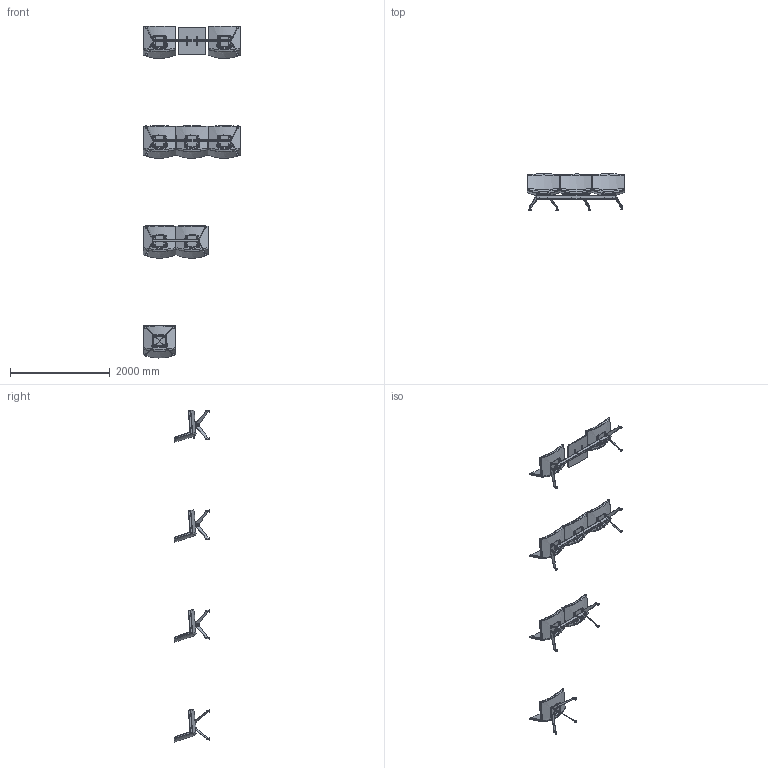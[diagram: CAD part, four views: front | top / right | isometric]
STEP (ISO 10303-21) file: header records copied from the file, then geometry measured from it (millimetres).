
FILE_DESCRIPTION(/* description */ (''),/* implementation_level */ '2;1');
FILE_NAME(/* name */ 'SOLY_1_2_3_3s.stp',/* time_stamp */ '2018-11-22T13:20:41+03:00',/* author */ (''),/* organization */ (''),/* preprocessor_version */ 'ST-DEVELOPER v16',/* originating_system */ 'SIEMENS PLM Software NX 10.0',/* authorisation */ '');
FILE_SCHEMA (('AP203_CONFIGURATION_CONTROLLED_3D_DESIGN_OF_MECHANICAL_PARTS_AND_ASSEMBLIES_MIM_LF { 1 0 10303 403 2 1 2}'));
Length unit declared in the file: millimetre
Products named in the file (1): adna2A48EF70l72o
Bounding box: 1950 x 719.35 x 6649.22 mm (x, y, z)
Volume: 299937674.6 mm3; surface area: 14145619.1 mm2
Topology: 76 solids, 76 shells, 1490 faces, 3511 edges, 2205 vertices
Faces by surface type: plane 500, cylinder 481, bspline 272, cone 127, torus 78, sphere 32
Full cylindrical faces by diameter (mm): 5 x24, 7 x36, 8.5 x14, 10.5 x21, 11 x4, 12 x18, 20 x18, 50 x18
Entity records: 58080 total; most frequent: CARTESIAN_POINT 26991, DIRECTION 6184, ORIENTED_EDGE 6094, EDGE_CURVE 3047, AXIS2_PLACEMENT_3D 2478, VERTEX_POINT 2077, EDGE_LOOP 1960, ADVANCED_FACE 1490
